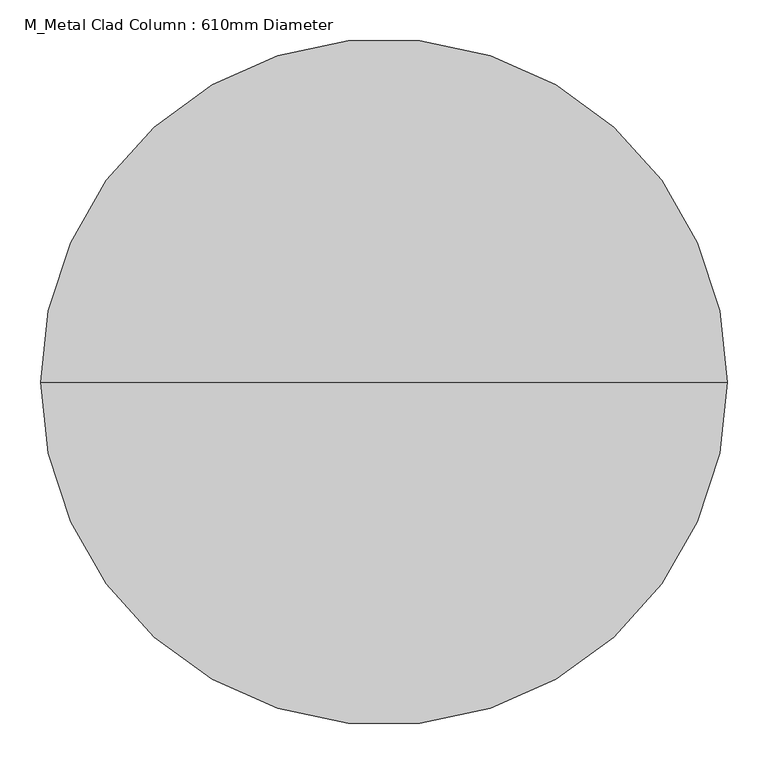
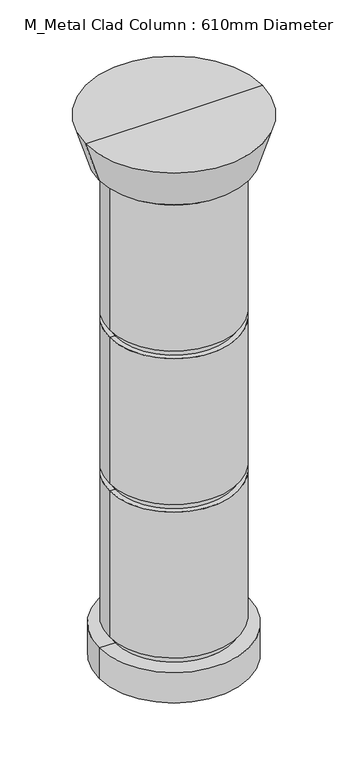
"""IFC4 building model written with IfcOpenShell, lengths in millimetres: column geometry, M_Metal Clad Column : 610mm Diameter."""

from ifc_helpers import new_model, si_unit, frame, origin, place, context, project, spatial, polyline, circle_curve, source, transform, mapped, element, save
from ifc_brep_helpers import plane_surface, cylinder_surface, revolved_surface, advanced_brep


def m_metal_clad_column_610mm_diameter_6b82dced(model_context):
    return source(origin(), model_context, "Body", "AdvancedBrep", [
        advanced_brep(
        [(0.0, 0.0, 45720.0), (-355.8, 0.0, 45720.0), (355.8, 0.0, 45720.0), (-355.8, 0.0, 45872.0), (355.8, 0.0, 45872.0), (280.0, 0.0, 46679.0), (-280.0, 0.0, 46679.0), (-305.0, 0.0, 46679.0), (305.0, 0.0, 46679.0), (-305.0, 0.0, 47410.0), (305.0, 0.0, 47410.0), (280.0, 0.0, 46641.0), (-280.0, 0.0, 46641.0), (305.0, 0.0, 46641.0), (-305.0, 0.0, 46641.0), (305.0, 0.0, 45910.0), (-305.0, 0.0, 45910.0), (280.0, 0.0, 45910.0), (-280.0, 0.0, 45910.0), (280.0, 0.0, 45872.0), (-280.0, 0.0, 45872.0), (355.8, 0.0, 48217.0), (-355.8, 0.0, 48217.0), (-419.3, 0.0, 48420.0), (419.3, 0.0, 48420.0), (0.0, 0.0, 48420.0), (280.0, 0.0, 48217.0), (-280.0, 0.0, 48217.0), (280.0, 0.0, 48179.0), (-280.0, 0.0, 48179.0), (305.0, 0.0, 48179.0), (-305.0, 0.0, 48179.0), (305.0, 0.0, 47448.0), (-305.0, 0.0, 47448.0), (280.0, 0.0, 47448.0), (-280.0, 0.0, 47448.0), (280.0, 0.0, 47410.0), (-280.0, 0.0, 47410.0)],
        [
            (0, 1),
            (1, 2, circle_curve(frame((0.0, 0.0, 45720.0), z_axis=(0.0, 0.0, -1.0), x_axis=(-1.0, 0.0, 0.0)), 355.8)),
            (2, 0),
            (2, 1, circle_curve(frame((0.0, 0.0, 45720.0), z_axis=(0.0, 0.0, -1.0), x_axis=(-1.0, 0.0, 0.0)), 355.8)),
            (1, 3),
            (3, 4, circle_curve(frame((0.0, 0.0, 45872.0), z_axis=(0.0, 0.0, -1.0), x_axis=(-1.0, 0.0, 0.0)), 355.8)),
            (4, 2),
            (4, 3, circle_curve(frame((0.0, 0.0, 45872.0), z_axis=(0.0, 0.0, -1.0), x_axis=(-1.0, 0.0, 0.0)), 355.8)),
            (5, 6, circle_curve(frame((0.0, 0.0, 46679.0), z_axis=(0.0, 0.0, 1.0), x_axis=(-1.0, 0.0, 0.0)), 280.0)),
            (6, 7),
            (7, 8, circle_curve(frame((0.0, 0.0, 46679.0), z_axis=(0.0, 0.0, -1.0), x_axis=(-1.0, 0.0, 0.0)), 305.0)),
            (8, 5),
            (7, 9),
            (9, 10, circle_curve(frame((0.0, 0.0, 47410.0), z_axis=(0.0, 0.0, -1.0), x_axis=(-1.0, 0.0, 0.0)), 305.0)),
            (10, 8),
            (7, 8, circle_curve(frame((0.0, 0.0, 46679.0), z_axis=(0.0, 0.0, 1.0), x_axis=(-1.0, 0.0, 0.0)), 305.0)),
            (10, 9, circle_curve(frame((0.0, 0.0, 47410.0), z_axis=(0.0, 0.0, -1.0), x_axis=(-1.0, 0.0, 0.0)), 305.0)),
            (6, 5, circle_curve(frame((0.0, 0.0, 46679.0), z_axis=(0.0, 0.0, 1.0), x_axis=(-1.0, 0.0, 0.0)), 280.0)),
            (11, 12, circle_curve(frame((0.0, 0.0, 46641.0), z_axis=(0.0, 0.0, 1.0), x_axis=(-1.0, 0.0, 0.0)), 280.0)),
            (12, 6),
            (5, 11),
            (12, 11, circle_curve(frame((0.0, 0.0, 46641.0), z_axis=(0.0, 0.0, 1.0), x_axis=(-1.0, 0.0, 0.0)), 280.0)),
            (13, 14, circle_curve(frame((0.0, 0.0, 46641.0), z_axis=(0.0, 0.0, 1.0), x_axis=(-1.0, 0.0, 0.0)), 305.0)),
            (14, 12),
            (11, 13),
            (14, 13, circle_curve(frame((0.0, 0.0, 46641.0), z_axis=(0.0, 0.0, 1.0), x_axis=(-1.0, 0.0, 0.0)), 305.0)),
            (15, 16, circle_curve(frame((0.0, 0.0, 45910.0), z_axis=(0.0, 0.0, 1.0), x_axis=(-1.0, 0.0, 0.0)), 305.0)),
            (16, 14),
            (13, 15),
            (16, 15, circle_curve(frame((0.0, 0.0, 45910.0), z_axis=(0.0, 0.0, 1.0), x_axis=(-1.0, 0.0, 0.0)), 305.0)),
            (17, 18, circle_curve(frame((0.0, 0.0, 45910.0), z_axis=(0.0, 0.0, 1.0), x_axis=(-1.0, 0.0, 0.0)), 280.0)),
            (18, 16),
            (15, 17),
            (18, 17, circle_curve(frame((0.0, 0.0, 45910.0), z_axis=(0.0, 0.0, 1.0), x_axis=(-1.0, 0.0, 0.0)), 280.0)),
            (19, 20, circle_curve(frame((0.0, 0.0, 45872.0), z_axis=(0.0, 0.0, 1.0), x_axis=(-1.0, 0.0, 0.0)), 280.0)),
            (20, 18),
            (17, 19),
            (20, 19, circle_curve(frame((0.0, 0.0, 45872.0), z_axis=(0.0, 0.0, 1.0), x_axis=(-1.0, 0.0, 0.0)), 280.0)),
            (3, 20),
            (19, 4),
            (21, 22, circle_curve(frame((0.0, 0.0, 48217.0), z_axis=(0.0, 0.0, 1.0), x_axis=(-1.0, 0.0, 0.0)), 355.8)),
            (22, 23),
            (23, 24, circle_curve(frame((0.0, 0.0, 48420.0), z_axis=(0.0, 0.0, -1.0), x_axis=(-1.0, 0.0, 0.0)), 419.3)),
            (24, 21),
            (23, 25),
            (25, 24),
            (23, 24, circle_curve(frame((0.0, 0.0, 48420.0), z_axis=(0.0, 0.0, 1.0), x_axis=(-1.0, 0.0, 0.0)), 419.3)),
            (22, 21, circle_curve(frame((0.0, 0.0, 48217.0), z_axis=(0.0, 0.0, 1.0), x_axis=(-1.0, 0.0, 0.0)), 355.8)),
            (26, 27, circle_curve(frame((0.0, 0.0, 48217.0), z_axis=(0.0, 0.0, 1.0), x_axis=(-1.0, 0.0, 0.0)), 280.0)),
            (27, 22),
            (21, 26),
            (27, 26, circle_curve(frame((0.0, 0.0, 48217.0), z_axis=(0.0, 0.0, 1.0), x_axis=(-1.0, 0.0, 0.0)), 280.0)),
            (28, 29, circle_curve(frame((0.0, 0.0, 48179.0), z_axis=(0.0, 0.0, 1.0), x_axis=(-1.0, 0.0, 0.0)), 280.0)),
            (29, 27),
            (26, 28),
            (29, 28, circle_curve(frame((0.0, 0.0, 48179.0), z_axis=(0.0, 0.0, 1.0), x_axis=(-1.0, 0.0, 0.0)), 280.0)),
            (30, 31, circle_curve(frame((0.0, 0.0, 48179.0), z_axis=(0.0, 0.0, 1.0), x_axis=(-1.0, 0.0, 0.0)), 305.0)),
            (31, 29),
            (28, 30),
            (31, 30, circle_curve(frame((0.0, 0.0, 48179.0), z_axis=(0.0, 0.0, 1.0), x_axis=(-1.0, 0.0, 0.0)), 305.0)),
            (32, 33, circle_curve(frame((0.0, 0.0, 47448.0), z_axis=(0.0, 0.0, 1.0), x_axis=(-1.0, 0.0, 0.0)), 305.0)),
            (33, 31),
            (30, 32),
            (33, 32, circle_curve(frame((0.0, 0.0, 47448.0), z_axis=(0.0, 0.0, 1.0), x_axis=(-1.0, 0.0, 0.0)), 305.0)),
            (34, 35, circle_curve(frame((0.0, 0.0, 47448.0), z_axis=(0.0, 0.0, 1.0), x_axis=(-1.0, 0.0, 0.0)), 280.0)),
            (35, 33),
            (32, 34),
            (35, 34, circle_curve(frame((0.0, 0.0, 47448.0), z_axis=(0.0, 0.0, 1.0), x_axis=(-1.0, 0.0, 0.0)), 280.0)),
            (36, 37, circle_curve(frame((0.0, 0.0, 47410.0), z_axis=(0.0, 0.0, 1.0), x_axis=(-1.0, 0.0, 0.0)), 280.0)),
            (37, 35),
            (34, 36),
            (37, 36, circle_curve(frame((0.0, 0.0, 47410.0), z_axis=(0.0, 0.0, 1.0), x_axis=(-1.0, 0.0, 0.0)), 280.0)),
            (9, 37),
            (36, 10),
        ],
        [
            plane_surface(frame((0.0, 0.0, 45720.0), z_axis=(0.0, 0.0, -1.0), x_axis=(-1.0, 0.0, 0.0))),
            cylinder_surface(frame((0.0, 0.0, 48420.0), z_axis=(0.0, 0.0, -1.0), x_axis=(-1.0, 0.0, 0.0)), 355.8),
            plane_surface(frame((0.0, 0.0, 46679.0), z_axis=(0.0, 0.0, -1.0), x_axis=(-1.0, 0.0, 0.0))),
            cylinder_surface(frame((0.0, 0.0, 48420.0), z_axis=(0.0, 0.0, -1.0), x_axis=(-1.0, 0.0, 0.0)), 305.0),
            cylinder_surface(frame((0.0, 0.0, 48420.0), z_axis=(0.0, 0.0, -1.0), x_axis=(-1.0, 0.0, 0.0)), 280.0),
            plane_surface(frame((0.0, 0.0, 46641.0), z_axis=(0.0, 0.0, 1.0), x_axis=(-1.0, 0.0, 0.0))),
            plane_surface(frame((0.0, 0.0, 45910.0), z_axis=(0.0, 0.0, -1.0), x_axis=(-1.0, 0.0, 0.0))),
            plane_surface(frame((0.0, 0.0, 45872.0), z_axis=(0.0, 0.0, 1.0), x_axis=(-1.0, 0.0, 0.0))),
            revolved_surface(polyline([(-419.3, 0.0, 48420.0), (-355.8, 0.0, 48217.0)]), (0.0, 0.0, 48420.0), (0.0, 0.0, -1.0)),
            plane_surface(frame((0.0, 0.0, 48420.0), z_axis=(0.0, 0.0, 1.0), x_axis=(-1.0, 0.0, 0.0))),
            plane_surface(frame((0.0, 0.0, 48217.0), z_axis=(0.0, 0.0, -1.0), x_axis=(-1.0, 0.0, 0.0))),
            plane_surface(frame((0.0, 0.0, 48179.0), z_axis=(0.0, 0.0, 1.0), x_axis=(-1.0, 0.0, 0.0))),
            plane_surface(frame((0.0, 0.0, 47448.0), z_axis=(0.0, 0.0, -1.0), x_axis=(-1.0, 0.0, 0.0))),
            plane_surface(frame((0.0, 0.0, 47410.0), z_axis=(0.0, 0.0, 1.0), x_axis=(-1.0, 0.0, 0.0))),
        ],
        [
            (0, [[1, 2, 3]]),
            (0, [[-3, 4, -1]]),
            (1, [[-2, 5, 6, 7]]),
            (1, [[-4, -7, 8, -5]]),
            (2, [[9, 10, 11, 12]]),
            (3, [[-11, 13, 14, 15]]),
            (3, [[16, -15, 17, -13]]),
            (2, [[18, -12, -16, -10]]),
            (4, [[19, 20, -9, 21]]),
            (4, [[22, -21, -18, -20]]),
            (5, [[23, 24, -19, 25]]),
            (5, [[26, -25, -22, -24]]),
            (3, [[27, 28, -23, 29]]),
            (3, [[30, -29, -26, -28]]),
            (6, [[31, 32, -27, 33]]),
            (6, [[34, -33, -30, -32]]),
            (4, [[35, 36, -31, 37]]),
            (4, [[38, -37, -34, -36]]),
            (7, [[-6, 39, -35, 40]]),
            (7, [[-8, -40, -38, -39]]),
            (8, [[41, 42, 43, 44]]),
            (9, [[-43, 45, 46]]),
            (9, [[47, -46, -45]]),
            (8, [[48, -44, -47, -42]]),
            (10, [[49, 50, -41, 51]]),
            (10, [[52, -51, -48, -50]]),
            (4, [[53, 54, -49, 55]]),
            (4, [[56, -55, -52, -54]]),
            (11, [[57, 58, -53, 59]]),
            (11, [[60, -59, -56, -58]]),
            (3, [[61, 62, -57, 63]]),
            (3, [[64, -63, -60, -62]]),
            (12, [[65, 66, -61, 67]]),
            (12, [[68, -67, -64, -66]]),
            (4, [[69, 70, -65, 71]]),
            (4, [[72, -71, -68, -70]]),
            (13, [[-14, 73, -69, 74]]),
            (13, [[-17, -74, -72, -73]]),
        ],
    ),
    ])


if __name__ == "__main__":
    model = new_model("IFC4")
    model_context = context("Model", 3, world=origin())
    ifc_project = project(units=[si_unit("LENGTHUNIT", "METRE", prefix="MILLI")], contexts=[model_context])
    site = spatial("IfcSite", under=ifc_project)
    building = spatial("IfcBuilding", under=site)
    placement = place(None, origin())
    m_metal_clad_column_610mm_diameter_shape = m_metal_clad_column_610mm_diameter_6b82dced(model_context)
    element("IfcColumn", 1, ObjectType="M_Metal Clad Column : 610mm Diameter", at=placement, inside=building, context=model_context, shape_type="MappedRepresentation", body=[
        mapped(m_metal_clad_column_610mm_diameter_shape, transform((0.0, 0.0, 0.0), x_axis=(1.0, 0.0, 0.0), y_axis=(0.0, 1.0, 0.0), z_axis=(0.0, 0.0, 1.0))),
    ])
    save(model, "model.ifc")
